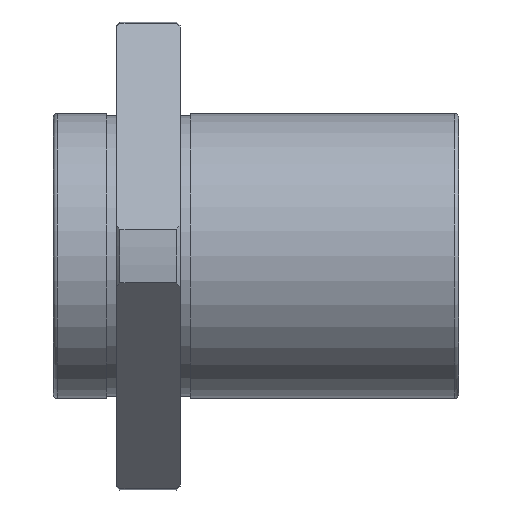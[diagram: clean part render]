
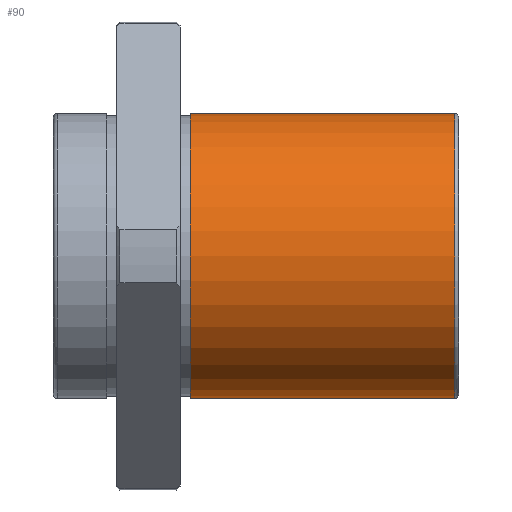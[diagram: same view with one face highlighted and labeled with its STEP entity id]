
A CAD part, front view. The second image highlights one B-rep face of the part: STEP entity #90.
In plain terms, the highlighted cylindrical face has radius 22.5 mm (diameter 45 mm), a full revolution.
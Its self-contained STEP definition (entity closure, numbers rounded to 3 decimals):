
#90=ADVANCED_FACE('',(#160,#161),#162,.T.);
#160=FACE_OUTER_BOUND('',#275,.T.);
#161=FACE_OUTER_BOUND('',#276,.T.);
#162=CYLINDRICAL_SURFACE('',#277,22.5);
#275=EDGE_LOOP('',(#453));
#276=EDGE_LOOP('',(#454));
#277=AXIS2_PLACEMENT_3D('',#455,#456,#457);
#453=ORIENTED_EDGE('',*,*,#671,.T.);
#454=ORIENTED_EDGE('',*,*,#661,.T.);
#455=CARTESIAN_POINT('',(44.0,0.0,0.));
#456=DIRECTION('',(1.0,-0.0,0.));
#457=DIRECTION('',(0.0,-1.0,0.0));
#661=EDGE_CURVE('',#770,#770,#771,.F.);
#671=EDGE_CURVE('',#790,#790,#791,.T.);
#770=VERTEX_POINT('',#946);
#771=CIRCLE('',#947,22.5);
#790=VERTEX_POINT('',#966);
#791=CIRCLE('',#967,22.5);
#946=CARTESIAN_POINT('',(43.4,0.,-22.5));
#947=AXIS2_PLACEMENT_3D('',#1098,#1099,#1100);
#966=CARTESIAN_POINT('',(1.6,0.0,-22.5));
#967=AXIS2_PLACEMENT_3D('',#1128,#1129,#1130);
#1098=CARTESIAN_POINT('',(43.4,0.0,0.));
#1099=DIRECTION('',(1.0,0.0,0.));
#1100=DIRECTION('',(0.,0.0,-1.0));
#1128=CARTESIAN_POINT('',(1.6,0.0,0.));
#1129=DIRECTION('',(1.0,0.0,0.));
#1130=DIRECTION('',(0.,0.0,-1.0));
